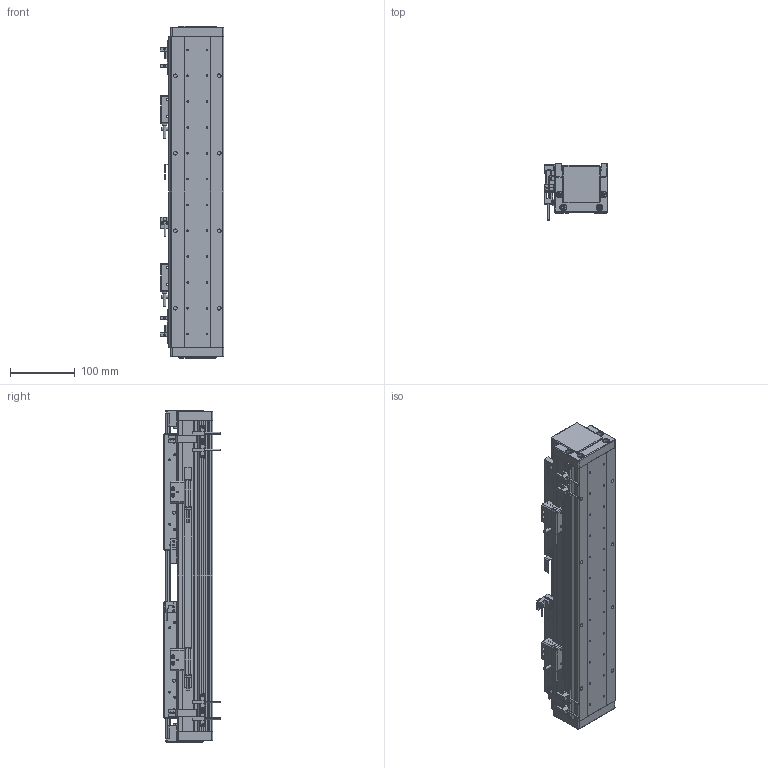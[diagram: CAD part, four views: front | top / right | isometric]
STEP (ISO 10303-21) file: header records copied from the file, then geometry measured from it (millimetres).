
FILE_DESCRIPTION (( 'STEP AP203' ), '1' );
FILE_NAME ('DA-A82-2-B2-T60-C010-0.2 眻盄萇儂.STEP', '2025-08-13T02:25:44', ( '' ), ( '' ), 'SwSTEP 2.0', 'SolidWorks 2019', '' );
FILE_SCHEMA (( 'CONFIG_CONTROL_DESIGN' ));
Length unit declared in the file: millimetre
Products named in the file (27): IU-AU82-L 菁釱絳寢; AU82-M-00 珨极趙賑雄怢啣; 复件 复件 DA82-XJ-00 缓冲橡胶^DA-A82-B2-T-C010-0.2-N 直线电机; 复件 BKM02-W040-C1-TP-DA-3.0 直线电机动子^DA-A82-B2-T-C010-0.2-N 直线电机; 复件 DA82-GDZ-ZJ-00 中间光电固定座^DA-A82-B2-T-C010-0.2-N 直线电机; DA-A82-2-B2-T60-C010-0.2 眻盄萇儂; 复件 DA60-DMT-DTJ-00 读数头支架^DA-A82-B2-T-C010-0.2-N 直线电机; AU82-M 幗紩賑怢; 葩璃 PM-L25^DA-A82-B2-T-C010-0.2-N 眻盄萇儂; AU82-M-00 珨极趙賑雄怢啣-1; AU82-HT-M-00 賑雄怢啣; 葩璃 PM-T45^DA-A82-B2-T-C010-0.2-N 眻盄萇儂; IU-AU82-L-00 菁釱(L480); AU82-M 幗紩賑怢-1; 葩璃 BKM01-W040-TRL^DA-A82-B2-T-C010-0.2-N 眻盄萇儂; 复件 DA95-GT-T-00 底座钢轨^IU-AU82-L 底座导轨; 复件 DA82-T-002-00 盖板^DA-A82-B2-T-C010-0.2-N 直线电机; DA-A60-GYP-DMT-00 光电感应片^DA-A82-B2-T-C010-0.2-N 直线电机(默认); 复件 纯铜油杯 6x6mm^AU82-M 滚珠滑台; 复件 DA82-GYP-ZJ-00 中间光电感应片^DA-A82-B2-T-C010-0.2-N 直线电机; 葩璃 DA82-B2-DP-00 結え^AU82-M 幗紩賑怢; 复件 六角薄螺母 M3^DA-A82-B2-T-C010-0.2-N 直线电机; 复件 DKW-GJ-XJ-00 防撞橡胶^DA-A82-B2-T-C010-0.2-N 直线电机; 复件 DA82-DG-H-N-00 端盖^DA-A82-B2-T-C010-0.2-N 直线电机(默认_按加工_); 复件 XD-U-02  磁栅尺^DA-A82-B2-T-C010-0.2-N 直线电机; 复件 DA95-B2-GT-00 滑块钢轨^AU82-M-00 一体化滑动台板; 葩璃 DMT-010 1米m 0.2M^DA-A82-B2-T-C010-0.2-N 眻盄萇儂
Assembly tree (57 placements, depth 4):
  DA-A82-2-B2-T60-C010-0.2 眻盄萇儂
    IU-AU82-L 菁釱絳寢
      IU-AU82-L-00 菁釱(L480)
      复件 DA95-GT-T-00 底座钢轨^IU-AU82-L 底座导轨  x2
    AU82-M 幗紩賑怢
      AU82-M-00 珨极趙賑雄怢啣
        AU82-HT-M-00 賑雄怢啣
        复件 DA95-B2-GT-00 滑块钢轨^AU82-M-00 一体化滑动台板  x4
      葩璃 DA82-B2-DP-00 結え^AU82-M 幗紩賑怢  x2
      复件 纯铜油杯 6x6mm^AU82-M 滚珠滑台  x2
    AU82-M 幗紩賑怢-1
      AU82-M-00 珨极趙賑雄怢啣-1
        AU82-HT-M-00 賑雄怢啣
        复件 DA95-B2-GT-00 滑块钢轨^AU82-M-00 一体化滑动台板  x4
      葩璃 DA82-B2-DP-00 結え^AU82-M 幗紩賑怢  x2
      复件 纯铜油杯 6x6mm^AU82-M 滚珠滑台  x2
    复件 BKM02-W040-C1-TP-DA-3.0 直线电机动子^DA-A82-B2-T-C010-0.2-N 直线电机  x2
    复件 DA60-DMT-DTJ-00 读数头支架^DA-A82-B2-T-C010-0.2-N 直线电机  x2
    葩璃 DMT-010 1米m 0.2M^DA-A82-B2-T-C010-0.2-N 眻盄萇儂  x2
    DA-A60-GYP-DMT-00 光电感应片^DA-A82-B2-T-C010-0.2-N 直线电机(默认)  x2
    复件 DA82-GDZ-ZJ-00 中间光电固定座^DA-A82-B2-T-C010-0.2-N 直线电机
    葩璃 PM-L25^DA-A82-B2-T-C010-0.2-N 眻盄萇儂
    复件 DA82-GYP-ZJ-00 中间光电感应片^DA-A82-B2-T-C010-0.2-N 直线电机
    复件 DKW-GJ-XJ-00 防撞橡胶^DA-A82-B2-T-C010-0.2-N 直线电机
    复件 复件 DA82-XJ-00 缓冲橡胶^DA-A82-B2-T-C010-0.2-N 直线电机  x2
    复件 DA82-DG-H-N-00 端盖^DA-A82-B2-T-C010-0.2-N 直线电机(默认_按加工_)  x2
    复件 DA82-T-002-00 盖板^DA-A82-B2-T-C010-0.2-N 直线电机
    葩璃 BKM01-W040-TRL^DA-A82-B2-T-C010-0.2-N 眻盄萇儂
    葩璃 PM-T45^DA-A82-B2-T-C010-0.2-N 眻盄萇儂  x4
    复件 XD-U-02  磁栅尺^DA-A82-B2-T-C010-0.2-N 直线电机
    复件 六角薄螺母 M3^DA-A82-B2-T-C010-0.2-N 直线电机  x8
Bounding box: 98.95 x 87.2 x 514 mm (x, y, z)
Volume: 2370973.2 mm3; surface area: 647309.9 mm2
Topology: 66 solids, 114 shells, 2889 faces, 7267 edges, 4440 vertices
Faces by surface type: plane 1198, cylinder 1181, cone 436, torus 46, bspline 20, sphere 8
Entity records: 51535 total; most frequent: CARTESIAN_POINT 10428, DIRECTION 8084, ORIENTED_EDGE 7486, EDGE_CURVE 3743, AXIS2_PLACEMENT_3D 2983, VERTEX_POINT 2411, LINE 2118, VECTOR 2118
